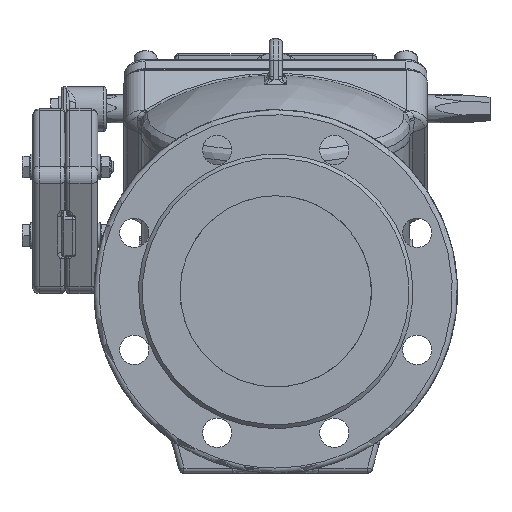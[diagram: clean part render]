
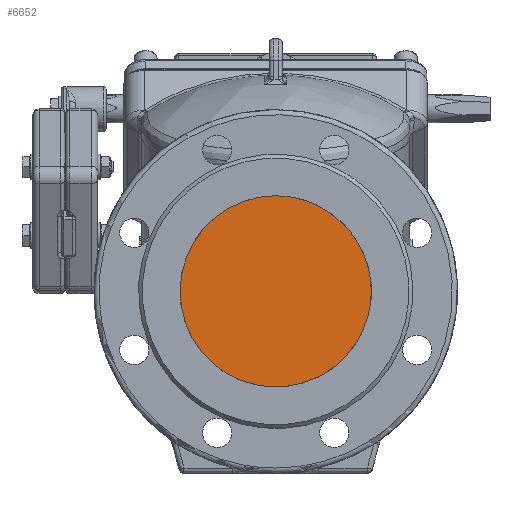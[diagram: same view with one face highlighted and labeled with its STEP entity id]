
A CAD part, left-side view. The second image highlights one B-rep face of the part: STEP entity #6652.
In plain terms, the highlighted planar face has unit normal (-1, 0, 0).
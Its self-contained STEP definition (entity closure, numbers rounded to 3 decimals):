
#6652=ADVANCED_FACE('',(#20040),#20042,.T.);
#20040=FACE_BOUND('',#20041,.T.);
#20041=EDGE_LOOP('',(#27004));
#20042=PLANE('',#20043);
#20043=AXIS2_PLACEMENT_3D('',#20044,#20045,#20046);
#20044=CARTESIAN_POINT('',(-274.031,32.918,-67.39));
#20045=DIRECTION('',(-1.,0.,0.));
#20046=DIRECTION('',(0.,0.,1.));
#27004=ORIENTED_EDGE('',*,*,#30730,.F.);
#30730=EDGE_CURVE('',#34667,#34667,#34668,.T.);
#34667=VERTEX_POINT('',#62882);
#34668=CIRCLE('',#62883,75.);
#62882=CARTESIAN_POINT('',(-274.031,0.,75.));
#62883=AXIS2_PLACEMENT_3D('',#62884,#62885,#62886);
#62884=CARTESIAN_POINT('',(-274.031,0.,0.));
#62885=DIRECTION('',(1.,0.,0.));
#62886=DIRECTION('',(0.,0.,1.));
